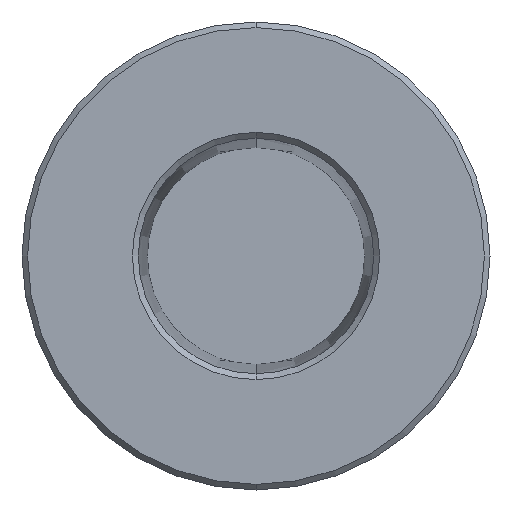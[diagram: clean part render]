
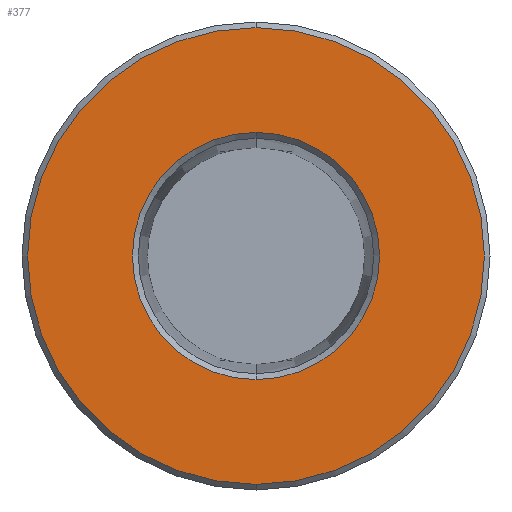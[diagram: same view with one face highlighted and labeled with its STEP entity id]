
A CAD part, front view. The second image highlights one B-rep face of the part: STEP entity #377.
In plain terms, the highlighted planar face has unit normal (0, -1, 0).
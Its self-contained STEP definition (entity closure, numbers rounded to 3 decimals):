
#68 = CARTESIAN_POINT ( 'NONE',  ( 0., 0., 0. ) ) ;
#70 = VERTEX_POINT ( 'NONE', #658 ) ;
#73 = VERTEX_POINT ( 'NONE', #269 ) ;
#83 = CARTESIAN_POINT ( 'NONE',  ( 0., 0., -6.6 ) ) ;
#119 = CARTESIAN_POINT ( 'NONE',  ( 0., 0., 0. ) ) ;
#128 = EDGE_CURVE ( 'NONE', #70, #73, #602, .T. ) ;
#140 = DIRECTION ( 'NONE',  ( 0., 1., 0. ) ) ;
#175 = CARTESIAN_POINT ( 'NONE',  ( 0., 0., 0. ) ) ;
#186 = EDGE_LOOP ( 'NONE', ( #346, #686 ) ) ;
#187 = CARTESIAN_POINT ( 'NONE',  ( 0., 0., 0. ) ) ;
#188 = EDGE_LOOP ( 'NONE', ( #430, #298 ) ) ;
#201 = AXIS2_PLACEMENT_3D ( 'NONE', #119, #609, #403 ) ;
#211 = FACE_BOUND ( 'NONE', #188, .T. ) ;
#225 = AXIS2_PLACEMENT_3D ( 'NONE', #187, #140, #690 ) ;
#229 = CIRCLE ( 'NONE', #466, 12.2 ) ;
#241 = DIRECTION ( 'NONE',  ( 0., 0., 1. ) ) ;
#248 = CIRCLE ( 'NONE', #610, 6.6 ) ;
#269 = CARTESIAN_POINT ( 'NONE',  ( 0., 0., -12.2 ) ) ;
#270 = CIRCLE ( 'NONE', #225, 6.6 ) ;
#293 = DIRECTION ( 'NONE',  ( 0., 1., 0. ) ) ;
#298 = ORIENTED_EDGE ( 'NONE', *, *, #414, .T. ) ;
#346 = ORIENTED_EDGE ( 'NONE', *, *, #128, .T. ) ;
#351 = DIRECTION ( 'NONE',  ( 0., 0., 1. ) ) ;
#377 = ADVANCED_FACE ( 'NONE', ( #621, #211 ), #689, .F. ) ;
#386 = EDGE_CURVE ( 'NONE', #73, #70, #229, .T. ) ;
#403 = DIRECTION ( 'NONE',  ( 0., 0., 1. ) ) ;
#414 = EDGE_CURVE ( 'NONE', #494, #569, #248, .T. ) ;
#430 = ORIENTED_EDGE ( 'NONE', *, *, #449, .T. ) ;
#449 = EDGE_CURVE ( 'NONE', #569, #494, #270, .T. ) ;
#466 = AXIS2_PLACEMENT_3D ( 'NONE', #175, #564, #351 ) ;
#494 = VERTEX_POINT ( 'NONE', #522 ) ;
#512 = DIRECTION ( 'NONE',  ( 0., 1., 0. ) ) ;
#522 = CARTESIAN_POINT ( 'NONE',  ( 0., 0., 6.6 ) ) ;
#524 = AXIS2_PLACEMENT_3D ( 'NONE', #573, #293, #241 ) ;
#564 = DIRECTION ( 'NONE',  ( 0., -1., 0. ) ) ;
#566 = DIRECTION ( 'NONE',  ( 0., 0., 1. ) ) ;
#569 = VERTEX_POINT ( 'NONE', #83 ) ;
#573 = CARTESIAN_POINT ( 'NONE',  ( -12.5, 0., 0. ) ) ;
#602 = CIRCLE ( 'NONE', #201, 12.2 ) ;
#609 = DIRECTION ( 'NONE',  ( 0., -1., 0. ) ) ;
#610 = AXIS2_PLACEMENT_3D ( 'NONE', #68, #512, #566 ) ;
#621 = FACE_OUTER_BOUND ( 'NONE', #186, .T. ) ;
#658 = CARTESIAN_POINT ( 'NONE',  ( 0., 0., 12.2 ) ) ;
#686 = ORIENTED_EDGE ( 'NONE', *, *, #386, .T. ) ;
#689 = PLANE ( 'NONE',  #524 ) ;
#690 = DIRECTION ( 'NONE',  ( 0., 0., 1. ) ) ;
